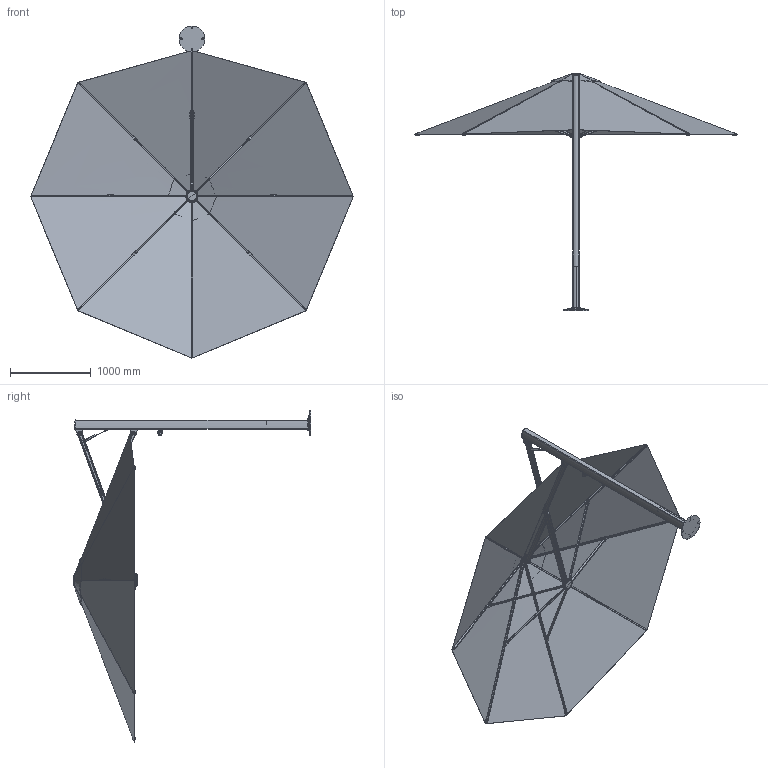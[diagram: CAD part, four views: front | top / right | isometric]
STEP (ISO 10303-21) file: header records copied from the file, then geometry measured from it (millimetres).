
FILE_DESCRIPTION (( 'STEP AP203' ), '1' );
FILE_NAME ('Serenity 4M Octagonal.STEP', '2020-06-18T04:52:04', ( '' ), ( '' ), 'SwSTEP 2.0', 'SolidWorks 2017', '' );
FILE_SCHEMA (( 'CONFIG_CONTROL_DESIGN' ));
Length unit declared in the file: millimetre
Products named in the file (46): SMP_UM - 110088; SMP_UM - 110060; SMP_UM - 110087; SMP_UM - 110065; SMP_UM - 110102_Stretched; SMP_UM - 110070; socket button head cap screw_am_B18.3.4M - 5 x 0.8 x 20 SBHCS --N; Serenity 4M Octagonal; SMP_UM - 210019; SMP_UM - 110084; SMP_UM - 210043 - Gastec Spring_Extended; SMP_UM - 110064; SMP_UM - 110078_All Holes; SMP_UM - 210036; SMP_UM - 110066; SMP_UM - 110076_PD; SMP_UM - 110091; SMP_UM - 110089; SMP_UM - 110210_4M Octagonal; SMP_UM - 110096_PD; SMP_UM - 110083b; SMP_UM - 110081; SMP_UM - 010261; SMP_UM - 110079; socket button head cap screw_am_B18.3.4M - 5 x 0.8 x 16 SBHCS --N; SMP_UM - 110131; SMP_UM - 110075; SMP_UM - 110063; SMP_UM - 110114; SMP_UM - 110080; SMP_UM - 110092; SMP_UM - 110110; SMP_UM - 110094; SMP_UM - 110168; SMP_UM - 110098; SMP_UM - 110093; SMP_UM - 110062; SMP_UM - 110059; SMP_UM - 110067_Default<As Machined>; SMP_UM - 210023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
Assembly tree (64 placements, depth 3):
  Serenity 4M Octagonal
    SMP_UM - 110210_4M Octagonal
      SMP_UM - 110078_All Holes
      SMP_UM - 110076_PD
    SMP_UM - 110068_revised
    SMP_UM - 110114
      SMP_UM - 110067_Default<As Machined>
    SMP_UM - 110059
      SMP_UM - 110081
      SMP_UM - 110080  x2
    SMP_UM - 110060
      SMP_UM - 110083
      SMP_UM - 110084
      SMP_UM - 210023
      socket button head cap screw_am_B18.3.4M - 5 x 0.8 x 16 SBHCS --N
      SMP_UM - 210036
      SMP_UM - 110085  x2
      SMP_UM - 110083b
    SMP_UM - 110064
      SMP_UM - 110092
    SMP_UM - 110063
      SMP_UM - 110092
      SMP_UM - 110093
      SMP_UM - 110094
      SMP_UM - 110110
    SMP_UM - 110061  x7
      SMP_UM - 110087
      SMP_UM - 110089
      SMP_UM - 210019
      SMP_UM - 110088
      SMP_UM - 110131
      socket button head cap screw_am_B18.3.4M - 5 x 0.8 x 20 SBHCS --N
      SMP_UM - 210036
    SMP_UM - 110062  x7
      SMP_UM - 110091
      SMP_UM - 110089
    SMP_UM - 110066
      SMP_UM - 110098
      SMP_UM - 110075
      SMP_UM - 110096_PD
      SMP_UM - 110102_Stretched
    SMP_UM - 210043 - Gastec Spring_Extended
    SMP_UM - 110168
      SMP_UM - 110075
      SMP_UM - 110079
    SMP_UM - 110065
      SMP_UM - 110070
      SMP_UM - 110069
    SMP_UM - 010261
    SMP_UM - 110222
Bounding box: 3994.32 x 2937.74 x 4107.92 mm (x, y, z)
Volume: 56056978.1 mm3; surface area: 28893841 mm2
Topology: 104 solids, 106 shells, 1956 faces, 4744 edges, 3007 vertices
Faces by surface type: cylinder 631, plane 610, bspline 301, cone 284, torus 110, sphere 20
Entity records: 67699 total; most frequent: CARTESIAN_POINT 40432, ORIENTED_EDGE 4928, DIRECTION 4097, EDGE_CURVE 2464, AXIS2_PLACEMENT_3D 1652, VERTEX_POINT 1542, EDGE_LOOP 1048, ADVANCED_FACE 1011
